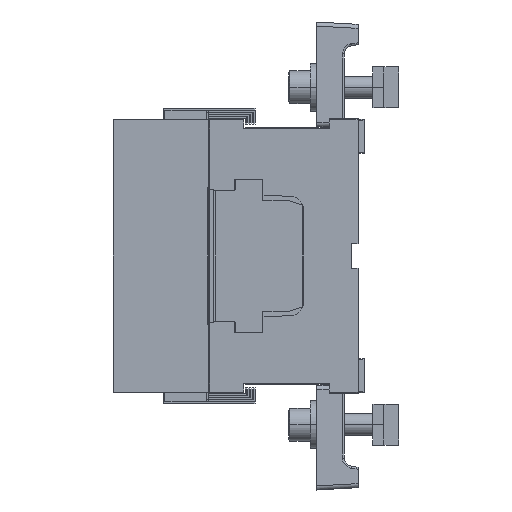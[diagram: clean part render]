
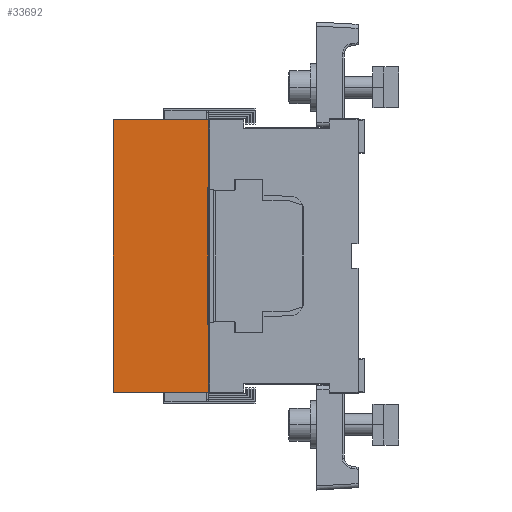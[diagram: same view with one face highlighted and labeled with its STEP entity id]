
A CAD part, left-side view. The second image highlights one B-rep face of the part: STEP entity #33692.
In plain terms, the highlighted planar face has unit normal (-1, 0, 0).
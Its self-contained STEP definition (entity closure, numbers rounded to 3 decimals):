
#891 = VECTOR ( 'NONE', #2696, 1000. ) ;
#1204 = VECTOR ( 'NONE', #13900, 1000. ) ;
#2696 = DIRECTION ( 'NONE',  ( 0., -1., 0. ) ) ;
#3080 = CARTESIAN_POINT ( 'NONE',  ( -51., 0., -50. ) ) ;
#3881 = PLANE ( 'NONE',  #4737 ) ;
#4071 = VECTOR ( 'NONE', #61418, 1000. ) ;
#4515 = CARTESIAN_POINT ( 'NONE',  ( -51., 0.3, 50. ) ) ;
#4737 = AXIS2_PLACEMENT_3D ( 'NONE', #24580, #30382, #26024 ) ;
#9476 = VECTOR ( 'NONE', #55151, 1000. ) ;
#9824 = VECTOR ( 'NONE', #61188, 1000. ) ;
#10849 = VECTOR ( 'NONE', #15124, 1000. ) ;
#10924 = VECTOR ( 'NONE', #59084, 1000. ) ;
#13205 = LINE ( 'NONE', #25524, #20824 ) ;
#13900 = DIRECTION ( 'NONE',  ( 0., 0., 1. ) ) ;
#13936 = ORIENTED_EDGE ( 'NONE', *, *, #41189, .T. ) ;
#14433 = EDGE_CURVE ( 'NONE', #38799, #22343, #22688, .T. ) ;
#15124 = DIRECTION ( 'NONE',  ( 0., 0., -1. ) ) ;
#16266 = VERTEX_POINT ( 'NONE', #60511 ) ;
#20201 = CARTESIAN_POINT ( 'NONE',  ( -51., 0., 100. ) ) ;
#20824 = VECTOR ( 'NONE', #30952, 1000. ) ;
#22263 = EDGE_CURVE ( 'NONE', #36593, #42965, #31086, .T. ) ;
#22343 = VERTEX_POINT ( 'NONE', #26712 ) ;
#22688 = LINE ( 'NONE', #34280, #9824 ) ;
#24053 = EDGE_CURVE ( 'NONE', #38950, #42965, #33788, .T. ) ;
#24580 = CARTESIAN_POINT ( 'NONE',  ( -51., 0., 100. ) ) ;
#24755 = LINE ( 'NONE', #57082, #1204 ) ;
#25524 = CARTESIAN_POINT ( 'NONE',  ( -51., -8., -50. ) ) ;
#26024 = DIRECTION ( 'NONE',  ( 0., 1., 0. ) ) ;
#26256 = EDGE_LOOP ( 'NONE', ( #31075, #40793, #32815, #35174, #66287, #70480, #28753, #13936 ) ) ;
#26712 = CARTESIAN_POINT ( 'NONE',  ( -51., 0., -100. ) ) ;
#28753 = ORIENTED_EDGE ( 'NONE', *, *, #14433, .F. ) ;
#29944 = CARTESIAN_POINT ( 'NONE',  ( -51., 70., -100. ) ) ;
#30382 = DIRECTION ( 'NONE',  ( 1., 0., 0. ) ) ;
#30645 = CARTESIAN_POINT ( 'NONE',  ( -51., 0., -100. ) ) ;
#30952 = DIRECTION ( 'NONE',  ( 0., 1., 0. ) ) ;
#31075 = ORIENTED_EDGE ( 'NONE', *, *, #42189, .T. ) ;
#31086 = LINE ( 'NONE', #20201, #10849 ) ;
#32815 = ORIENTED_EDGE ( 'NONE', *, *, #22263, .F. ) ;
#33692 = ADVANCED_FACE ( 'NONE', ( #53629 ), #3881, .F. ) ;
#33788 = LINE ( 'NONE', #55592, #4071 ) ;
#34280 = CARTESIAN_POINT ( 'NONE',  ( -51., 0., 100. ) ) ;
#35174 = ORIENTED_EDGE ( 'NONE', *, *, #54063, .F. ) ;
#36593 = VERTEX_POINT ( 'NONE', #39307 ) ;
#36912 = LINE ( 'NONE', #43414, #10924 ) ;
#37759 = EDGE_CURVE ( 'NONE', #61926, #22343, #52449, .T. ) ;
#38799 = VERTEX_POINT ( 'NONE', #3080 ) ;
#38950 = VERTEX_POINT ( 'NONE', #4515 ) ;
#39307 = CARTESIAN_POINT ( 'NONE',  ( -51., 0., 100. ) ) ;
#40793 = ORIENTED_EDGE ( 'NONE', *, *, #24053, .T. ) ;
#41189 = EDGE_CURVE ( 'NONE', #38799, #16266, #13205, .T. ) ;
#42189 = EDGE_CURVE ( 'NONE', #16266, #38950, #24755, .T. ) ;
#42807 = LINE ( 'NONE', #49349, #9476 ) ;
#42965 = VERTEX_POINT ( 'NONE', #50247 ) ;
#43414 = CARTESIAN_POINT ( 'NONE',  ( -51., 70., 100. ) ) ;
#49349 = CARTESIAN_POINT ( 'NONE',  ( -51., 0., 100. ) ) ;
#50247 = CARTESIAN_POINT ( 'NONE',  ( -51., 0., 50. ) ) ;
#52449 = LINE ( 'NONE', #30645, #891 ) ;
#53512 = VERTEX_POINT ( 'NONE', #69114 ) ;
#53629 = FACE_OUTER_BOUND ( 'NONE', #26256, .T. ) ;
#54063 = EDGE_CURVE ( 'NONE', #53512, #36593, #42807, .T. ) ;
#55151 = DIRECTION ( 'NONE',  ( 0., -1., 0. ) ) ;
#55592 = CARTESIAN_POINT ( 'NONE',  ( -51., -8., 50. ) ) ;
#57082 = CARTESIAN_POINT ( 'NONE',  ( -51., 0.3, 50. ) ) ;
#59084 = DIRECTION ( 'NONE',  ( 0., 0., -1. ) ) ;
#60511 = CARTESIAN_POINT ( 'NONE',  ( -51., 0.3, -50. ) ) ;
#61188 = DIRECTION ( 'NONE',  ( 0., 0., -1. ) ) ;
#61418 = DIRECTION ( 'NONE',  ( 0., -1., 0. ) ) ;
#61926 = VERTEX_POINT ( 'NONE', #29944 ) ;
#66172 = EDGE_CURVE ( 'NONE', #53512, #61926, #36912, .T. ) ;
#66287 = ORIENTED_EDGE ( 'NONE', *, *, #66172, .T. ) ;
#69114 = CARTESIAN_POINT ( 'NONE',  ( -51., 70., 100. ) ) ;
#70480 = ORIENTED_EDGE ( 'NONE', *, *, #37759, .T. ) ;
